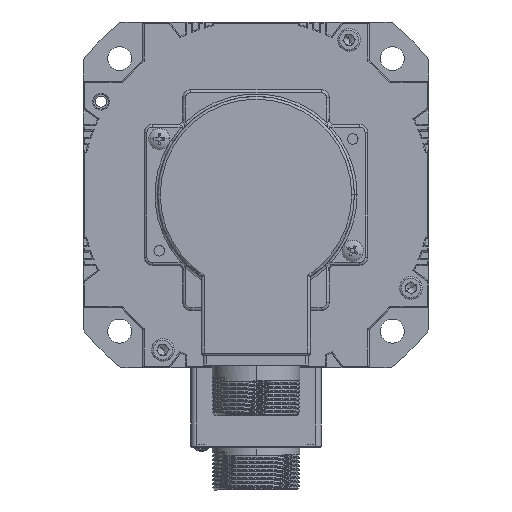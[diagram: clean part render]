
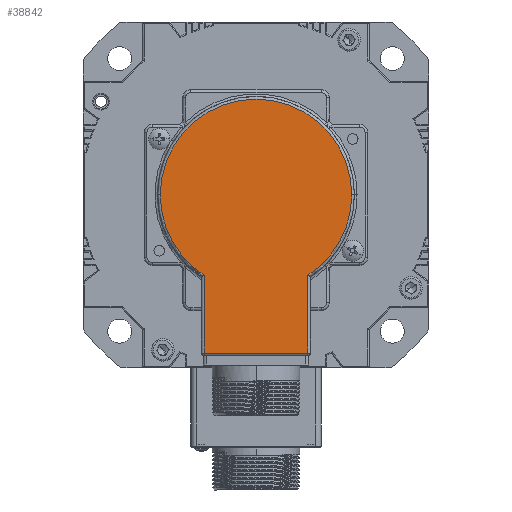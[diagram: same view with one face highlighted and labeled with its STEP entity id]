
A CAD part, front view. The second image highlights one B-rep face of the part: STEP entity #38842.
In plain terms, the highlighted planar face has unit normal (0, -1, 0) as drawn and (0, 0, -1) by its records, which use the part's own axes.
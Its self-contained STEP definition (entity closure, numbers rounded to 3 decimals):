
#2890 = ORIENTED_EDGE ( 'NONE', *, *, #19638, .T. ) ;
#5518 = AXIS2_PLACEMENT_3D ( 'NONE', #51314, #76398, #75599 ) ;
#5674 = ORIENTED_EDGE ( 'NONE', *, *, #32158, .T. ) ;
#8401 = VERTEX_POINT ( 'NONE', #49478 ) ;
#9483 = DIRECTION ( 'NONE',  ( 0., 0., -1. ) ) ;
#13560 = ORIENTED_EDGE ( 'NONE', *, *, #43881, .T. ) ;
#14160 = VERTEX_POINT ( 'NONE', #26693 ) ;
#14691 = CARTESIAN_POINT ( 'NONE',  ( 19.5, 30.802, -33. ) ) ;
#14816 = CARTESIAN_POINT ( 'NONE',  ( 0., 0., -33. ) ) ;
#17825 = VECTOR ( 'NONE', #54377, 1000. ) ;
#18249 = DIRECTION ( 'NONE',  ( 0., -1., 0. ) ) ;
#18296 = ORIENTED_EDGE ( 'NONE', *, *, #58992, .T. ) ;
#19638 = EDGE_CURVE ( 'NONE', #14160, #57606, #48408, .T. ) ;
#20273 = EDGE_CURVE ( 'NONE', #43793, #14160, #35896, .T. ) ;
#22908 = AXIS2_PLACEMENT_3D ( 'NONE', #14816, #9483, #69627 ) ;
#24370 = DIRECTION ( 'NONE',  ( 0., 0., -1. ) ) ;
#26512 = DIRECTION ( 'NONE',  ( 0., 1., 0. ) ) ;
#26693 = CARTESIAN_POINT ( 'NONE',  ( -19.5, 59.5, -33. ) ) ;
#27980 = ORIENTED_EDGE ( 'NONE', *, *, #70447, .T. ) ;
#29468 = EDGE_LOOP ( 'NONE', ( #69795, #2890, #5674, #18296, #13560, #27980 ) ) ;
#30849 = AXIS2_PLACEMENT_3D ( 'NONE', #33660, #40556, #70774 ) ;
#31518 = CARTESIAN_POINT ( 'NONE',  ( 19.5, 59.5, -33. ) ) ;
#31927 = CARTESIAN_POINT ( 'NONE',  ( -36., 0., -33. ) ) ;
#32158 = EDGE_CURVE ( 'NONE', #57606, #8401, #36365, .T. ) ;
#32304 = CIRCLE ( 'NONE', #5518, 36. ) ;
#33660 = CARTESIAN_POINT ( 'NONE',  ( 0., 0., -33. ) ) ;
#35035 = CIRCLE ( 'NONE', #22908, 36. ) ;
#35896 = LINE ( 'NONE', #49495, #63670 ) ;
#36365 = LINE ( 'NONE', #14691, #66966 ) ;
#38626 = FACE_OUTER_BOUND ( 'NONE', #29468, .T. ) ;
#38842 = ADVANCED_FACE ( 'NONE', ( #38626 ), #47917, .T. ) ;
#40556 = DIRECTION ( 'NONE',  ( 0., 0., -1. ) ) ;
#43793 = VERTEX_POINT ( 'NONE', #73758 ) ;
#43881 = EDGE_CURVE ( 'NONE', #50552, #67567, #76724, .T. ) ;
#47917 = PLANE ( 'NONE',  #61245 ) ;
#48234 = CARTESIAN_POINT ( 'NONE',  ( 20.5, 59.5, -33. ) ) ;
#48408 = LINE ( 'NONE', #48234, #17825 ) ;
#49478 = CARTESIAN_POINT ( 'NONE',  ( 19.5, 30.261, -33. ) ) ;
#49495 = CARTESIAN_POINT ( 'NONE',  ( -19.5, 60.5, -33. ) ) ;
#50552 = VERTEX_POINT ( 'NONE', #71292 ) ;
#51314 = CARTESIAN_POINT ( 'NONE',  ( 0., 0., -33. ) ) ;
#54377 = DIRECTION ( 'NONE',  ( 1., 0., 0. ) ) ;
#57606 = VERTEX_POINT ( 'NONE', #31518 ) ;
#58992 = EDGE_CURVE ( 'NONE', #8401, #50552, #35035, .T. ) ;
#60216 = CARTESIAN_POINT ( 'NONE',  ( 0., 0., -33. ) ) ;
#61245 = AXIS2_PLACEMENT_3D ( 'NONE', #60216, #24370, #18249 ) ;
#63670 = VECTOR ( 'NONE', #26512, 1000. ) ;
#66966 = VECTOR ( 'NONE', #75379, 1000. ) ;
#67567 = VERTEX_POINT ( 'NONE', #31927 ) ;
#69627 = DIRECTION ( 'NONE',  ( -1., 0., 0. ) ) ;
#69795 = ORIENTED_EDGE ( 'NONE', *, *, #20273, .T. ) ;
#70447 = EDGE_CURVE ( 'NONE', #67567, #43793, #32304, .T. ) ;
#70774 = DIRECTION ( 'NONE',  ( -1., 0., 0. ) ) ;
#71292 = CARTESIAN_POINT ( 'NONE',  ( 36., 0., -33. ) ) ;
#73758 = CARTESIAN_POINT ( 'NONE',  ( -19.5, 30.261, -33. ) ) ;
#75379 = DIRECTION ( 'NONE',  ( 0., -1., 0. ) ) ;
#75599 = DIRECTION ( 'NONE',  ( -1., 0., 0. ) ) ;
#76398 = DIRECTION ( 'NONE',  ( 0., 0., -1. ) ) ;
#76724 = CIRCLE ( 'NONE', #30849, 36. ) ;
